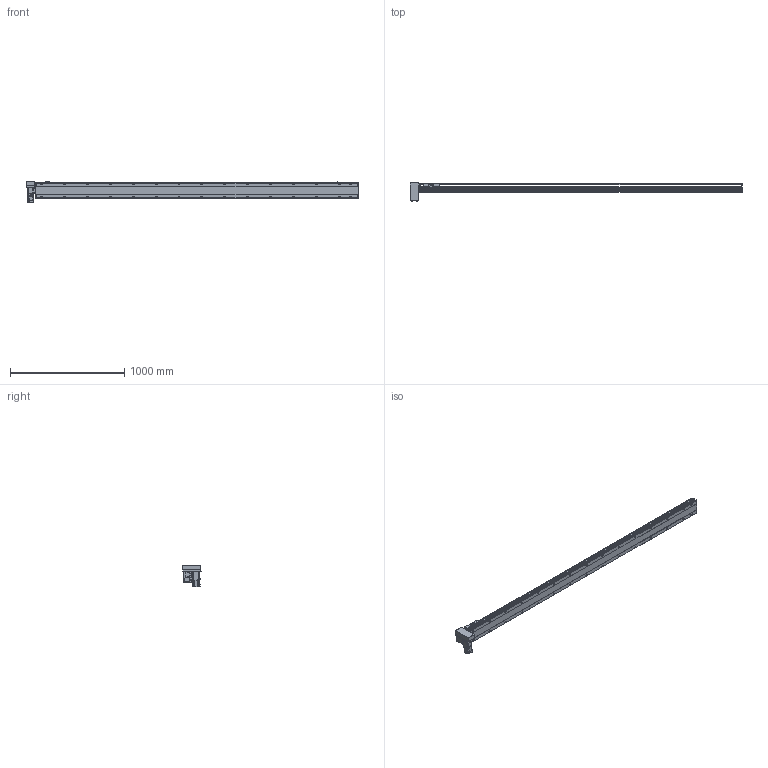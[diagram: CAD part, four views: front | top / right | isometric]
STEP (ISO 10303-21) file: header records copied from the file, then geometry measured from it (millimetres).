
FILE_DESCRIPTION( ( 'STEP AP214' ), '1' );
FILE_NAME( 'x:/temp/worker_1/temp/exporttempdir_5824_92_rKuOy/format_0/PBS140-P40-S2550-RD-T40-C1-N(0).stp', '2022-06-07T05:37:02', ( 'License CC BY-ND 4.0' ), ( 'CADENAS' ), ' ', 'PARTsolutions', ' ' );
FILE_SCHEMA( ( 'AUTOMOTIVE_DESIGN { 1 0 10303 214 1 1 1 1 }' ) );
Length unit declared in the file: millimetre
Products named in the file (7): PBS140-P40-S2550-RD-T40-C1-N(0); _PBS140-S2550()_body; _PBS140T-RD_motors; _T40-p1; _PBS140_sliser; _PBS140_plant; _PBS140_sensor
Assembly tree (8 placements, depth 2):
  PBS140-P40-S2550-RD-T40-C1-N(0)
    _PBS140-S2550()_body
    _PBS140T-RD_motors
    _T40-p1
    _PBS140_sliser
    _PBS140_plant
    _PBS140_sensor  x3
Bounding box: 2904 x 162 x 189.7 mm (x, y, z)
Volume: 13009467.2 mm3; surface area: 2214968.9 mm2
Topology: 8 solids, 8 shells, 1187 faces, 3116 edges, 2035 vertices
Faces by surface type: plane 734, cylinder 387, cone 56, sphere 8, torus 2
Full cylindrical faces by diameter (mm): 3.242 x4, 4 x2, 4.134 x4, 4.4 x8, 4.5 x2, 4.8 x4, 4.917 x38, 5.5 x7, 6 x2, 7 x32, 7.5 x8, 8 x12, 8.5 x4, 10.5 x30, 14 x1, 30 x2, 50 x2
Entity records: 43783 total; most frequent: CARTESIAN_POINT 7427, DIRECTION 5687, ORIENTED_EDGE 5332, EDGE_CURVE 2666, AXIS2_PLACEMENT_3D 2017, VERTEX_POINT 1869, LINE 1653, VECTOR 1653
